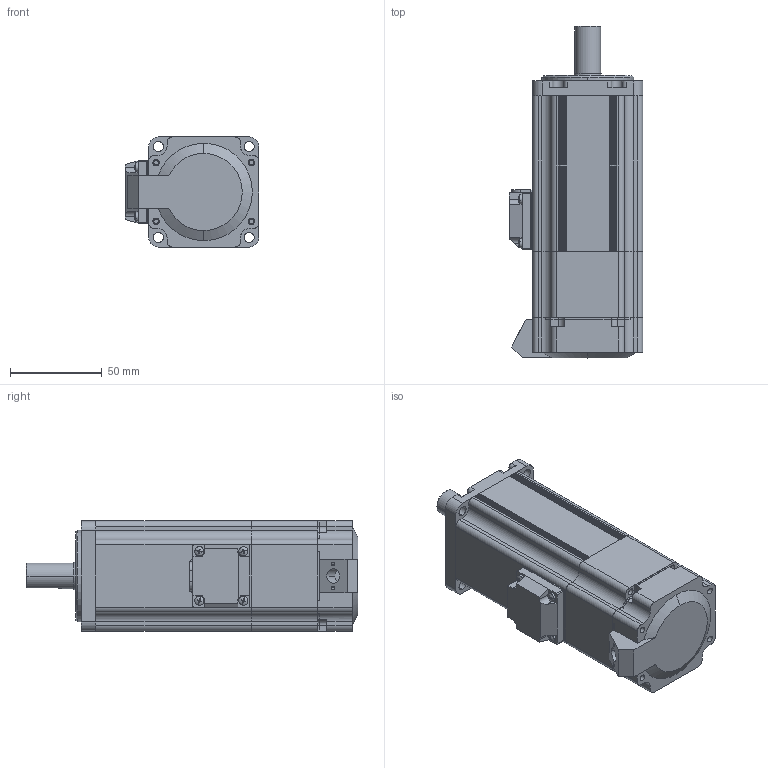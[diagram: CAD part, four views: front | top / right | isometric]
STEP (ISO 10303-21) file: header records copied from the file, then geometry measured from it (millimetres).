
FILE_DESCRIPTION (( 'STEP AP214' ), '1' );
FILE_NAME ('MS6H-60C30BZ2-20P4.STEP', '2020-08-13T06:57:26', ( '' ), ( '' ), 'SwSTEP 2.0', 'SolidWorks 2016', '' );
FILE_SCHEMA (( 'AUTOMOTIVE_DESIGN' ));
Length unit declared in the file: millimetre
Products named in the file (1): MS6H-60C30BZ2-20P4
Bounding box: 72.8 x 181 x 60 mm (x, y, z)
Surface area: 55078 mm2 (no closed solid volume)
Topology: 0 solids, 20 shells, 415 faces, 1392 edges, 982 vertices
Faces by surface type: cylinder 240, plane 155, cone 12, sphere 8
Entity records: 19892 total; most frequent: DIRECTION 2877, CARTESIAN_POINT 2852, ORIENTED_EDGE 2196, EDGE_CURVE 1392, AXIS2_PLACEMENT_3D 1081, VERTEX_POINT 982, LINE 715, VECTOR 715
